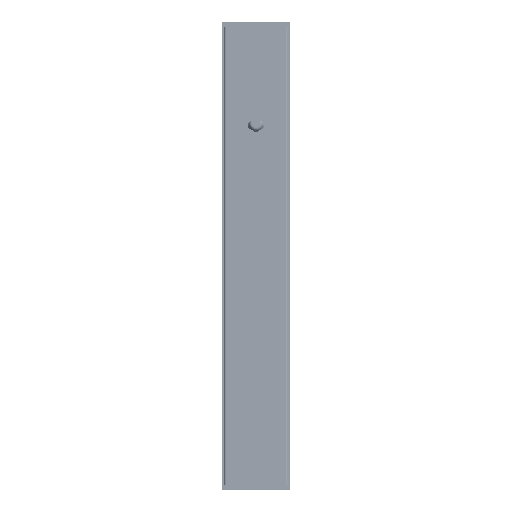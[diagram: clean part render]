
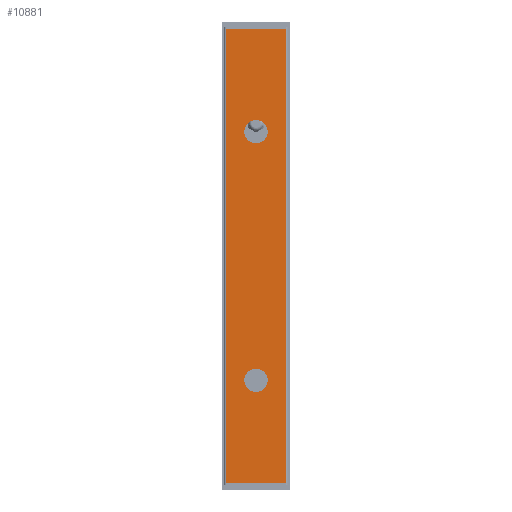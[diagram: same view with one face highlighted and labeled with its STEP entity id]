
A CAD part, front view. The second image highlights one B-rep face of the part: STEP entity #10881.
In plain terms, the highlighted planar face has unit normal (0, -1, 0).
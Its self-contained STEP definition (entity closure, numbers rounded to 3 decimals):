
#9114=DIRECTION('',(1.,0.,0.));
#9115=VECTOR('',#9114,72.);
#9116=CARTESIAN_POINT('',(7662.499,4612.843,274.));
#9117=LINE('',#9116,#9115);
#9118=DIRECTION('',(-1.,0.,0.));
#9119=VECTOR('',#9118,72.);
#9120=CARTESIAN_POINT('',(7734.499,4612.843,-274.));
#9121=LINE('',#9120,#9119);
#9122=DIRECTION('',(0.,0.,1.));
#9123=VECTOR('',#9122,548.);
#9124=CARTESIAN_POINT('',(7662.499,4612.843,-274.));
#9125=LINE('',#9124,#9123);
#9126=CARTESIAN_POINT('',(7698.499,4612.843,150.));
#9127=DIRECTION('',(0.,-1.,0.));
#9128=DIRECTION('',(0.,0.,-1.));
#9129=AXIS2_PLACEMENT_3D('',#9126,#9127,#9128);
#9131=CARTESIAN_POINT('',(7698.499,4612.843,150.));
#9132=DIRECTION('',(0.,-1.,0.));
#9133=DIRECTION('',(0.,0.,1.));
#9134=AXIS2_PLACEMENT_3D('',#9131,#9132,#9133);
#9136=CARTESIAN_POINT('',(7698.499,4612.843,-150.));
#9137=DIRECTION('',(0.,-1.,0.));
#9138=DIRECTION('',(0.,0.,-1.));
#9139=AXIS2_PLACEMENT_3D('',#9136,#9137,#9138);
#9141=CARTESIAN_POINT('',(7698.499,4612.843,-150.));
#9142=DIRECTION('',(0.,-1.,0.));
#9143=DIRECTION('',(0.,0.,1.));
#9144=AXIS2_PLACEMENT_3D('',#9141,#9142,#9143);
#9146=DIRECTION('',(0.,0.,1.));
#9147=VECTOR('',#9146,548.);
#9148=CARTESIAN_POINT('',(7734.499,4612.843,-274.));
#9149=LINE('',#9148,#9147);
#9667=CARTESIAN_POINT('',(7662.499,4612.843,-274.));
#9669=VERTEX_POINT('',#9667);
#9670=CARTESIAN_POINT('',(7734.499,4612.843,-274.));
#9672=VERTEX_POINT('',#9670);
#9723=CARTESIAN_POINT('',(7662.499,4612.843,274.));
#9725=VERTEX_POINT('',#9723);
#9726=CARTESIAN_POINT('',(7734.499,4612.843,274.));
#9728=VERTEX_POINT('',#9726);
#10050=CARTESIAN_POINT('',(7698.499,4612.843,135.9));
#10051=CARTESIAN_POINT('',(7698.499,4612.843,164.1));
#10052=VERTEX_POINT('',#10050);
#10053=VERTEX_POINT('',#10051);
#10054=CARTESIAN_POINT('',(7698.499,4612.843,-164.1));
#10055=CARTESIAN_POINT('',(7698.499,4612.843,-135.9));
#10056=VERTEX_POINT('',#10054);
#10057=VERTEX_POINT('',#10055);
#10857=CARTESIAN_POINT('',(7662.499,4612.843,-509.));
#10858=DIRECTION('',(0.,-1.,0.));
#10859=DIRECTION('',(1.,0.,0.));
#10860=AXIS2_PLACEMENT_3D('',#10857,#10858,#10859);
#10861=PLANE('',#10860);
#10862=ORIENTED_EDGE('',*,*,#10360,.T.);
#10864=ORIENTED_EDGE('',*,*,#10863,.F.);
#10865=ORIENTED_EDGE('',*,*,#10242,.T.);
#10866=ORIENTED_EDGE('',*,*,#10852,.T.);
#10867=EDGE_LOOP('',(#10862,#10864,#10865,#10866));
#10868=FACE_OUTER_BOUND('',#10867,.F.);
#10870=ORIENTED_EDGE('',*,*,#10869,.T.);
#10872=ORIENTED_EDGE('',*,*,#10871,.T.);
#10873=EDGE_LOOP('',(#10870,#10872));
#10874=FACE_BOUND('',#10873,.F.);
#10876=ORIENTED_EDGE('',*,*,#10875,.T.);
#10878=ORIENTED_EDGE('',*,*,#10877,.T.);
#10879=EDGE_LOOP('',(#10876,#10878));
#10880=FACE_BOUND('',#10879,.F.);
#10881=ADVANCED_FACE('',(#10868,#10874,#10880),#10861,.T.);
#9130=CIRCLE('',#9129,14.1);
#9135=CIRCLE('',#9134,14.1);
#9140=CIRCLE('',#9139,14.1);
#9145=CIRCLE('',#9144,14.1);
#10242=EDGE_CURVE('',#9672,#9669,#9121,.T.);
#10360=EDGE_CURVE('',#9725,#9728,#9117,.T.);
#10852=EDGE_CURVE('',#9669,#9725,#9125,.T.);
#10863=EDGE_CURVE('',#9672,#9728,#9149,.T.);
#10869=EDGE_CURVE('',#10052,#10053,#9130,.T.);
#10871=EDGE_CURVE('',#10053,#10052,#9135,.T.);
#10875=EDGE_CURVE('',#10056,#10057,#9140,.T.);
#10877=EDGE_CURVE('',#10057,#10056,#9145,.T.);
